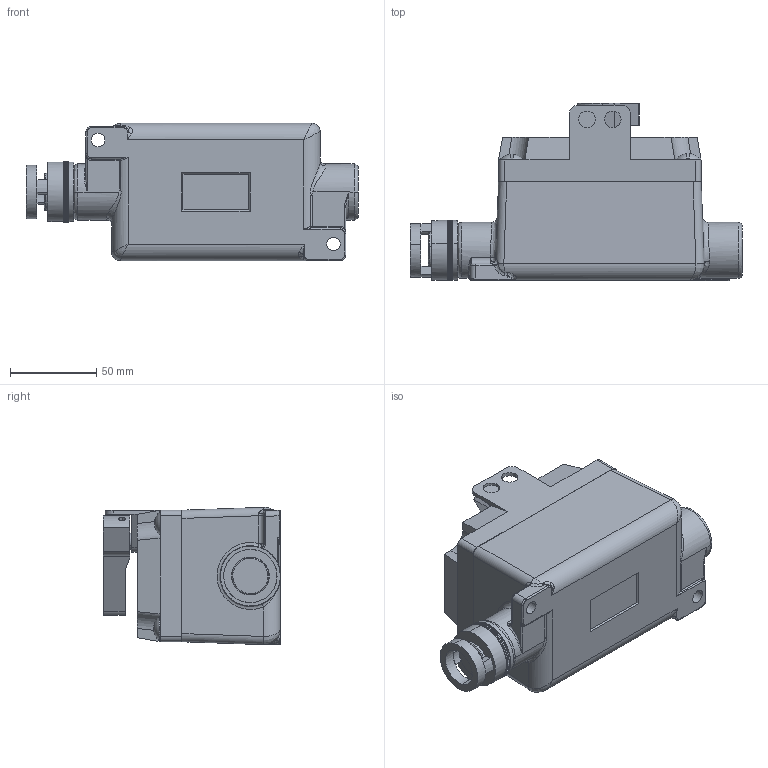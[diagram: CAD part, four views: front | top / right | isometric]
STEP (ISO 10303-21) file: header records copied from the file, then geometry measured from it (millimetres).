
FILE_DESCRIPTION (( 'STEP AP203' ), '1' );
FILE_NAME ('EPCS-SW1-PLG-24VDC-0.5IN.STEP', '2025-02-26T15:47:08', ( '' ), ( '' ), 'SwSTEP 2.0', 'SolidWorks 2020', '' );
FILE_SCHEMA (( 'CONFIG_CONTROL_DESIGN' ));
Length unit declared in the file: inch
Products named in the file (11): Switch Pusher; Bolt CXS; EPS-25A-COVER_EPS-25A-COVER; external tooth lock washer_ai; Handle Bolt_Handle Bolt; GOB3-R4C N34 LED GREEN-; EPS-25A-COVER_EPS-PB10-MS-SB; Switch_Switch; Switch Handle_Switch Handle; EPCS-SW1-PLG-24VDC-0.5IN; SWB-5
Assembly tree (13 placements, depth 3):
  EPCS-SW1-PLG-24VDC-0.5IN
    EPS-25A-COVER_EPS-25A-COVER
      EPS-25A-COVER_EPS-PB10-MS-SB
      Handle Bolt_Handle Bolt
      Switch Handle_Switch Handle
      Switch Pusher
      external tooth lock washer_ai
    Switch_Switch
    Bolt CXS  x4
    GOB3-R4C N34 LED GREEN-
    SWB-5
Bounding box: 192.54 x 102.77 x 79.61 mm (x, y, z)
Volume: 466234.9 mm3; surface area: 139994.4 mm2
Topology: 20 solids, 20 shells, 1279 faces, 3160 edges, 1993 vertices
Faces by surface type: plane 832, cylinder 231, bspline 140, cone 56, torus 16, sphere 4
Entity records: 43358 total; most frequent: CARTESIAN_POINT 13675, ORIENTED_EDGE 5994, DIRECTION 5574, EDGE_CURVE 2997, LINE 1966, VECTOR 1966, VERTEX_POINT 1929, AXIS2_PLACEMENT_3D 1804
